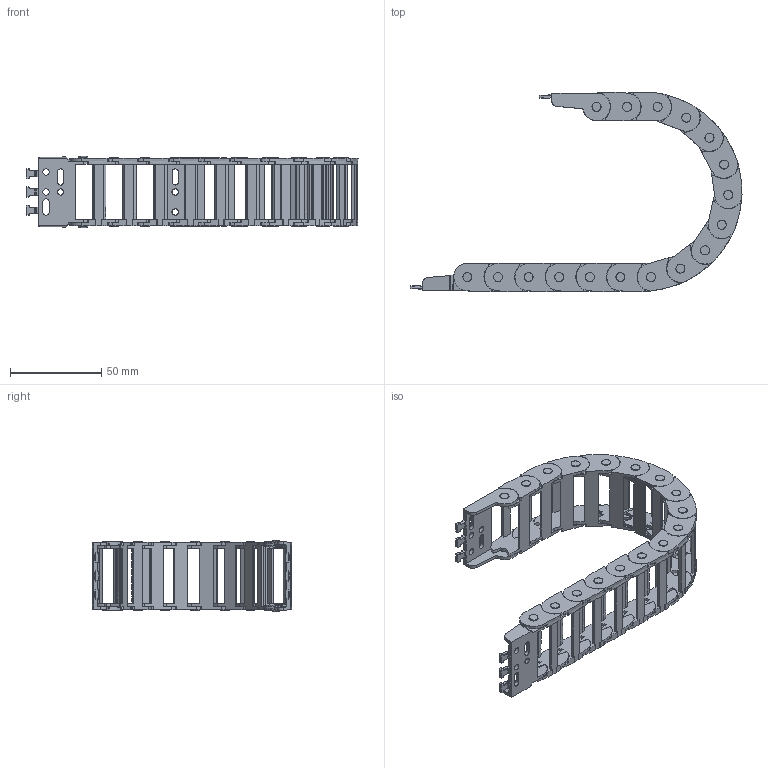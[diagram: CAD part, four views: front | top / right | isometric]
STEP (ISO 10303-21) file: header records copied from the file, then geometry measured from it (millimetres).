
FILE_DESCRIPTION((''),'2;1');
FILE_NAME('WK-10X30-R48_ASM','2022-05-04T11:36:07',('admin'),(''),'CREO PARAMETRIC BY PTC INC, 2021164','CREO PARAMETRIC BY PTC INC, 2021164','');
FILE_SCHEMA(('CONFIG_CONTROL_DESIGN','GEOMETRIC_VALIDATION_PROPERTIES_MIM'));
Length unit declared in the file: millimetre
Products named in the file (4): 10X30; 10-30-LTT-A; 10-30-LTT-B; WK-10X30-R48_ASM
Assembly tree (18 placements, depth 2):
  WK-10X30-R48_ASM
    10X30  x16
    10-30-LTT-A
    10-30-LTT-B
Bounding box: 182.24 x 109.62 x 39.14 mm (x, y, z)
Volume: 42787.7 mm3; surface area: 56087.9 mm2
Topology: 18 solids, 18 shells, 3446 faces, 9825 edges, 6529 vertices
Faces by surface type: plane 1694, extrusion 1136, cylinder 528, cone 88
Entity records: 26810 total; most frequent: CARTESIAN_POINT 4764, ORIENTED_EDGE 2940, DIRECTION 2441, PRESENTATION_STYLE_ASSIGNMENT 2050, STYLED_ITEM 2050, CURVE_STYLE 1541, EDGE_CURVE 1470, VECTOR 1027
